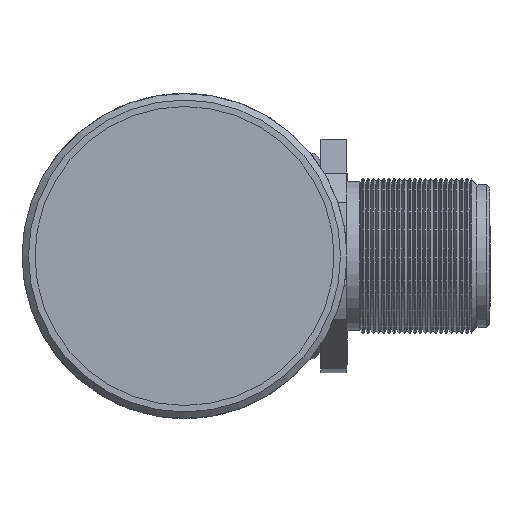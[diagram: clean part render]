
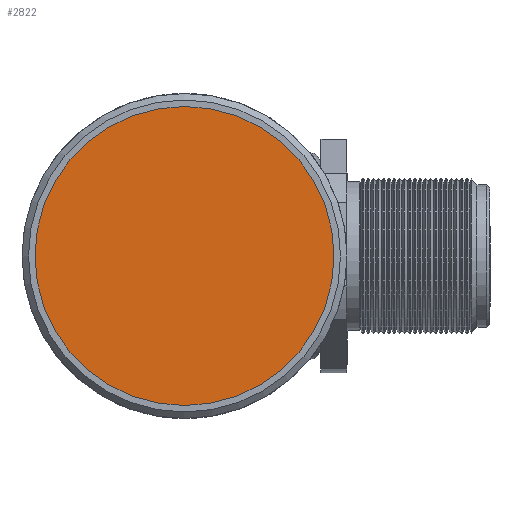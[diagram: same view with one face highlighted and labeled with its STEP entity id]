
A CAD part, left-side view. The second image highlights one B-rep face of the part: STEP entity #2822.
In plain terms, the highlighted planar face has unit normal (-1, 0, 0).
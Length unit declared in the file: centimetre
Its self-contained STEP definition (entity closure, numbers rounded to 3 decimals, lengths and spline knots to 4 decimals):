
#390=PLANE('',#3049);
#700=VERTEX_POINT('',#3446);
#945=CIRCLE('',#3048,1.15);
#1111=EDGE_CURVE('',#700,#700,#945,.T.);
#1475=ORIENTED_EDGE('',*,*,#1111,.T.);
#2180=EDGE_LOOP('',(#1475));
#2505=FACE_BOUND('',#2180,.T.);
#2822=ADVANCED_FACE('',(#2505),#390,.F.);
#3048=AXIS2_PLACEMENT_3D('',#3445,#4464,#4465);
#3049=AXIS2_PLACEMENT_3D('',#3447,#4466,$);
#3445=CARTESIAN_POINT('',(-3.4,0.,0.));
#3446=CARTESIAN_POINT('',(-3.4,0.,-1.15));
#3447=CARTESIAN_POINT('',(-3.4,0.,0.));
#4464=DIRECTION('',(-1.,0.,0.));
#4465=DIRECTION('',(0.,0.,-1.15));
#4466=DIRECTION('',(1.,0.,0.));
